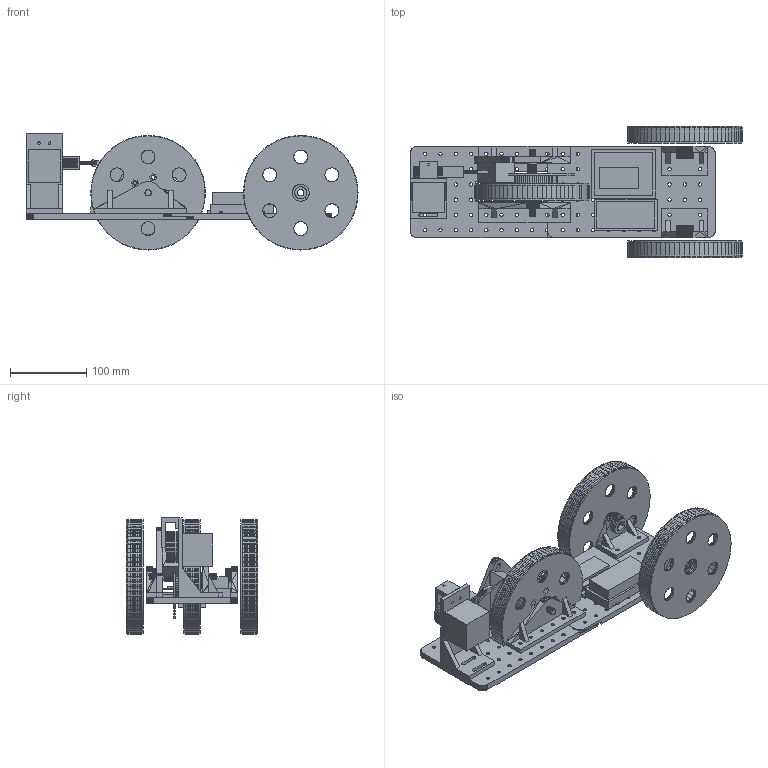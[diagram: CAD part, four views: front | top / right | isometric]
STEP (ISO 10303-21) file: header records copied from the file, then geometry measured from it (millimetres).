
FILE_DESCRIPTION(('Open CASCADE Model'),'2;1');
FILE_NAME('Open CASCADE Shape Model','2026-11-24T12:52:29',('Author'),( 'Open CASCADE'),'Open CASCADE STEP processor 8.0','Open CASCADE 8.0' ,'Unknown');
FILE_SCHEMA(('AUTOMOTIVE_DESIGN { 1 0 10303 214 1 1 1 1 }'));
Length unit declared in the file: millimetre
Products named in the file (30): Achsbock_vorne_links; Achsbock_vorne_rechts; Achse_hinten_M8; Akku_Platzhalter; Akku_Wanne; Bremssattel_Platzhalter; Bremsscheibe_Platzhalter; Distanz_kurz; Distanz_lang; ESP32_Platzhalter; Elektronik_Traeger; Exzenter; Gabel_links; Gabel_rechts; Gewindestange_M4; Grundplatte_hinten; Grundplatte_vorne; Hallsensor_A3144_Platzhalter; Hallsensor_Arm_Motor; Hallsensor_Halter; Motorhalter; NEMA17_Platzhalter; Platine_Platzhalter; Pleuel; Rad_hinten; Rad_vorne_links; Rad_vorne_rechts; Reifen_hinten; Reifen_vorne_links; Reifen_vorne_rechts
Bounding box: 435 x 172 x 152 mm (x, y, z)
Volume: 1340686.8 mm3; surface area: 520912.9 mm2
Topology: 30 solids, 30 shells, 13115 faces, 38610 edges, 25627 vertices
Faces by surface type: plane 13115
Entity records: 929949 total; most frequent: CARTESIAN_POINT 154573, DIRECTION 142062, LINE 115830, VECTOR 115830, ORIENTED_EDGE 77220, PCURVE 77220, DEFINITIONAL_REPRESENTATION 77220, EDGE_CURVE 38610
